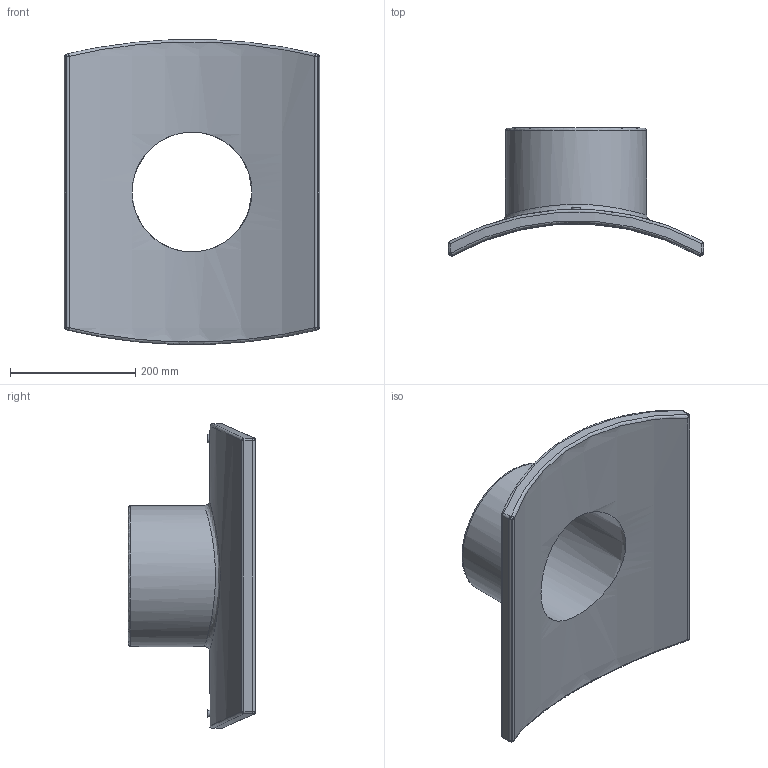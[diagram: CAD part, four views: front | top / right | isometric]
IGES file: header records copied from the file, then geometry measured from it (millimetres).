
Global section: file name: 4758W4800225.ipt; native system: Autodesk Inventor 2015; preprocessor: unknown; author: KIM; date: 20180416.104042; units: millimetre
Bounding box: 407 x 203.82 x 486.21 mm (x, y, z)
Volume: 5254111.8 mm3; surface area: 563384.8 mm2
Topology: 2 solids, 2 shells, 56 faces, 108 edges, 62 vertices
Faces by surface type: cylinder 16, sphere 12, plane 11, bspline 9, revolution 6, cone 2
Full cylindrical faces by diameter (mm): 4 x2, 225 x1
